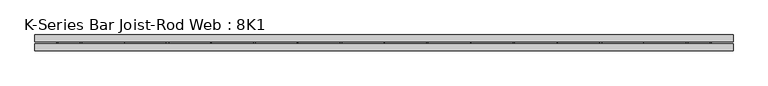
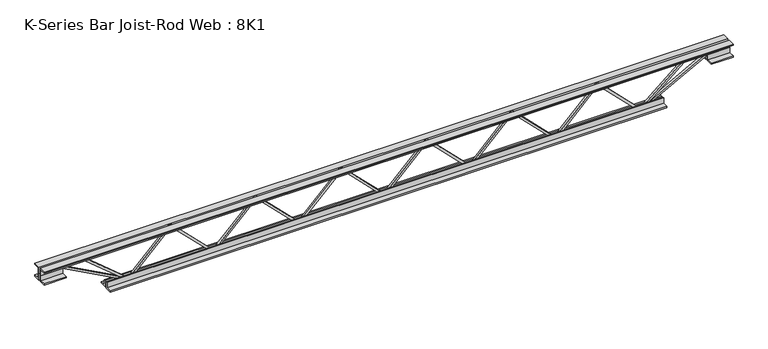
"""IFC4 building model written with IfcOpenShell, lengths in millimetres: beam geometry, K-Series Bar Joist-Rod Web : 8K1."""

from ifc_helpers import new_model, si_unit, frame, origin, place, context, project, spatial, polyline, outline, extrude, source, transform, mapped, element, save


def k_series_bar_joist_rod_web_8k1_72458764(model_context):
    return source(origin(), model_context, "Body", "SweptSolid", [
        extrude(outline(polyline([(-90.4875, 393.2938636), (-100.0125, 393.2938636), (-100.0125, 398.4430436), (90.4875, 588.7399754), (90.4875, 591.1416154), (-100.0125, 781.4385472), (-100.0125, 786.5877272), (-90.4875, 786.5877272), (-90.4875, 785.3869072), (100.0125, 595.0899754), (100.0125, 584.7916154), (-90.4875, 394.4946836), (-90.4875, 393.2938636)])), frame((0.0, -4.7625, 0.0), z_axis=(0.0, 1.0, 0.0), x_axis=(0.0, 0.0, 1.0)), (0.0, 0.0, 1.0), 9.525),
        extrude(outline(polyline([(-90.4875, 0.0), (-100.0125, 0.0), (-100.0125, 5.14918), (90.4875, 195.4461118), (90.4875, 197.8477518), (-100.0125, 388.1446836), (-100.0125, 393.2938636), (-90.4875, 393.2938636), (-90.4875, 392.0930436), (100.0125, 201.7961118), (100.0125, 191.4977518), (-90.4875, 1.20082), (-90.4875, 0.0)])), frame((0.0, -4.7625, 0.0), z_axis=(0.0, 1.0, 0.0), x_axis=(0.0, 0.0, 1.0)), (0.0, 0.0, 1.0), 9.525),
        extrude(outline(polyline([(-90.4875, -393.2938636), (-100.0125, -393.2938636), (-100.0125, -388.1446836), (90.4875, -197.8477518), (90.4875, -195.4461118), (-100.0125, -5.14918), (-100.0125, 0.0), (-90.4875, 0.0), (-90.4875, -1.20082), (100.0125, -191.4977518), (100.0125, -201.7961118), (-90.4875, -392.0930436), (-90.4875, -393.2938636)])), frame((0.0, -4.7625, 0.0), z_axis=(0.0, 1.0, 0.0), x_axis=(0.0, 0.0, 1.0)), (0.0, 0.0, 1.0), 9.525),
        extrude(outline(polyline([(-90.4875, -786.5877272), (-100.0125, -786.5877272), (-100.0125, -781.4385472), (90.4875, -591.1416154), (90.4875, -588.7399754), (-100.0125, -398.4430436), (-100.0125, -393.2938636), (-90.4875, -393.2938636), (-90.4875, -394.4946836), (100.0125, -584.7916154), (100.0125, -595.0899754), (-90.4875, -785.3869072), (-90.4875, -786.5877272)])), frame((0.0, -4.7625, 0.0), z_axis=(0.0, 1.0, 0.0), x_axis=(0.0, 0.0, 1.0)), (0.0, 0.0, 1.0), 9.525),
        extrude(outline(polyline([(-90.4875, 786.5877272), (-100.0125, 786.5877272), (-100.0125, 791.7369072), (90.4875, 982.033839), (90.4875, 984.435479), (-100.0125, 1174.7324108), (-100.0125, 1179.8815908), (-90.4875, 1179.8815908), (-90.4875, 1178.6807708), (100.0125, 988.383839), (100.0125, 978.085479), (-90.4875, 787.7885472), (-90.4875, 786.5877272)])), frame((0.0, -4.7625, 0.0), z_axis=(0.0, 1.0, 0.0), x_axis=(0.0, 0.0, 1.0)), (0.0, 0.0, 1.0), 9.525),
        extrude(outline(polyline([(-90.4875, -1179.8815908), (-100.0125, -1179.8815908), (-100.0125, -1174.7324108), (90.4875, -984.435479), (90.4875, -982.033839), (-100.0125, -791.7369072), (-100.0125, -786.5877272), (-90.4875, -786.5877272), (-90.4875, -787.7885472), (100.0125, -978.085479), (100.0125, -988.383839), (-90.4875, -1178.6807708), (-90.4875, -1179.8815908)])), frame((0.0, -4.7625, 0.0), z_axis=(0.0, 1.0, 0.0), x_axis=(0.0, 0.0, 1.0)), (0.0, 0.0, 1.0), 9.525),
        extrude(outline(polyline([(4.7625, 101.6), (36.5125, 101.6), (36.5125, 95.25), (11.1125, 95.25), (11.1125, 69.85), (4.7625, 69.85), (4.7625, 101.6)])), frame((-1586.2815908, 0.0, 0.0), z_axis=(1.0, 0.0, 0.0), x_axis=(0.0, 1.0, 0.0)), (0.0, 0.0, 1.0), 3172.5631816),
        extrude(outline(polyline([(-4.7625, 101.6), (-4.7625, 69.85), (-11.1125, 69.85), (-11.1125, 95.25), (-36.5125, 95.25), (-36.5125, 101.6), (-4.7625, 101.6)])), frame((-1586.2815908, 0.0, 0.0), z_axis=(1.0, 0.0, 0.0), x_axis=(0.0, 1.0, 0.0)), (0.0, 0.0, 1.0), 3172.5631816),
        extrude(outline(polyline([(-4.7625, 38.1), (-36.5125, 38.1), (-36.5125, 44.45), (-11.1125, 44.45), (-11.1125, 69.85), (-4.7625, 69.85), (-4.7625, 38.1)])), frame((-1586.2815908, 0.0, 0.0), z_axis=(1.0, 0.0, 0.0), x_axis=(0.0, 1.0, 0.0)), (0.0, 0.0, 1.0), 101.6),
        extrude(outline(polyline([(36.5125, 38.1), (4.7625, 38.1), (4.7625, 69.85), (11.1125, 69.85), (11.1125, 44.45), (36.5125, 44.45), (36.5125, 38.1)])), frame((-1586.2815908, 0.0, 0.0), z_axis=(1.0, 0.0, 0.0), x_axis=(0.0, 1.0, 0.0)), (0.0, 0.0, 1.0), 101.6),
        extrude(outline(polyline([(4.7625, 38.1), (4.7625, 69.85), (11.1125, 69.85), (11.1125, 44.45), (36.5125, 44.45), (36.5125, 38.1), (4.7625, 38.1)])), frame((1484.6815908, 0.0, 0.0), z_axis=(1.0, 0.0, 0.0), x_axis=(0.0, 1.0, 0.0)), (0.0, 0.0, 1.0), 101.6),
        extrude(outline(polyline([(-4.7625, 38.1), (-36.5125, 38.1), (-36.5125, 44.45), (-11.1125, 44.45), (-11.1125, 69.85), (-4.7625, 69.85), (-4.7625, 38.1)])), frame((1484.6815908, 0.0, 0.0), z_axis=(1.0, 0.0, 0.0), x_axis=(0.0, 1.0, 0.0)), (0.0, 0.0, 1.0), 101.6),
        extrude(outline(polyline([(4.7625, -101.6), (4.7625, -69.85), (11.1125, -69.85), (11.1125, -95.25), (36.5125, -95.25), (36.5125, -101.6), (4.7625, -101.6)])), frame((-1281.4815908, 0.0, 0.0), z_axis=(1.0, 0.0, 0.0), x_axis=(0.0, 1.0, 0.0)), (0.0, 0.0, 1.0), 2562.9631816),
        extrude(outline(polyline([(-4.7625, -101.6), (-36.5125, -101.6), (-36.5125, -95.25), (-11.1125, -95.25), (-11.1125, -69.85), (-4.7625, -69.85), (-4.7625, -101.6)])), frame((-1281.4815908, 0.0, 0.0), z_axis=(1.0, 0.0, 0.0), x_axis=(0.0, 1.0, 0.0)), (0.0, 0.0, 1.0), 2562.9631816),
        extrude(outline(polyline([(0.0, -9.525), (0.0, 0.0), (346.6425392, 0.0), (346.6425392, -9.525), (0.0, -9.525)])), frame((-1486.9498893, 4.7625, 65.662372), z_axis=(0.4762831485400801, 0.0, 0.8792919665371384), x_axis=(0.8792919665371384, 0.0, -0.4762831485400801)), (0.0, 0.0, 1.0), 9.525),
        extrude(outline(polyline([(0.0, -9.525), (0.0, 0.0), (256.7645337, 0.0), (256.7645337, -9.525), (0.0, -9.525)])), frame((-1379.5908176, 4.7625, 66.2025686), z_axis=(0.6430015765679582, 0.0, 0.7658648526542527), x_axis=(0.7658648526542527, 0.0, -0.6430015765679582)), (0.0, 0.0, 1.0), 9.525),
        extrude(outline(polyline([(0.0, -9.525), (0.0, 0.0), (346.6425392, 0.0), (346.6425392, -9.525), (0.0, -9.525)])), frame((1486.9498893, -4.7625, 65.662372), z_axis=(-0.4762831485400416, 0.0, 0.8792919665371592), x_axis=(-0.8792919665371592, 0.0, -0.4762831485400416)), (0.0, 0.0, 1.0), 9.525),
        extrude(outline(polyline([(0.0, -9.525), (0.0, 0.0), (256.7645337, 0.0), (256.7645337, -9.525), (0.0, -9.525)])), frame((1379.5908176, -4.7625, 66.2025686), z_axis=(-0.6430015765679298, 0.0, 0.7658648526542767), x_axis=(-0.7658648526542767, 0.0, -0.6430015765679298)), (0.0, 0.0, 1.0), 9.525),
    ])


if __name__ == "__main__":
    model = new_model("IFC4")
    model_context = context("Model", 3, world=origin())
    ifc_project = project(units=[si_unit("LENGTHUNIT", "METRE", prefix="MILLI")], contexts=[model_context])
    site = spatial("IfcSite", under=ifc_project)
    building = spatial("IfcBuilding", under=site)
    placement = place(None, origin())
    k_series_bar_joist_rod_web_8k1_shape = k_series_bar_joist_rod_web_8k1_72458764(model_context)
    element("IfcBeam", 1, ObjectType="K-Series Bar Joist-Rod Web : 8K1", at=placement, inside=building, context=model_context, shape_type="MappedRepresentation", body=[
        mapped(k_series_bar_joist_rod_web_8k1_shape, transform((0.0, 0.0, 0.0), x_axis=(1.0, 0.0, 0.0), y_axis=(0.0, 1.0, 0.0), z_axis=(0.0, 0.0, 1.0))),
    ])
    save(model, "model.ifc")
